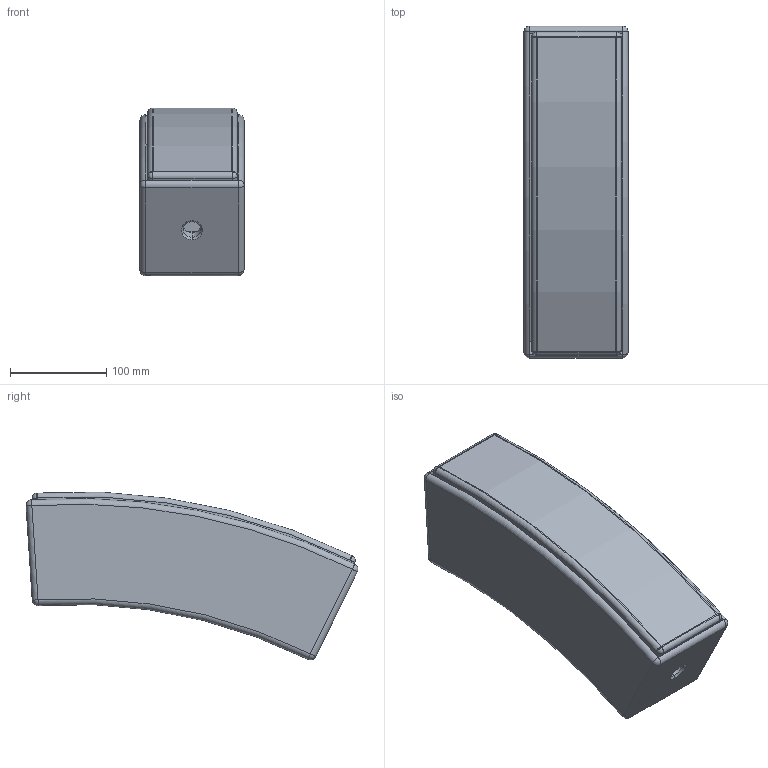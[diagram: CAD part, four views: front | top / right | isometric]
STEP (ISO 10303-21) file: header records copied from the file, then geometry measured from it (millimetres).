
FILE_DESCRIPTION (( 'STEP AP203' ), '1' );
FILE_NAME ('SEEBURG_L4c.STEP', '2012-09-26T09:52:15', ( 'Fabian' ), ( '' ), 'SwSTEP 2.0', 'SolidWorks 2009', '' );
FILE_SCHEMA (( 'CONFIG_CONTROL_DESIGN' ));
Length unit declared in the file: millimetre
Products named in the file (4): L4c_Gehäuse_Internet; SEEBURG_L4c; L4c_Rückwand_Internet; L4c_Stoffrahmen_Internet
Assembly tree (3 placements, depth 2):
  SEEBURG_L4c
    L4c_Stoffrahmen_Internet
    L4c_Gehäuse_Internet
    L4c_Rückwand_Internet
Bounding box: 108 x 344.51 x 173.91 mm (x, y, z)
Volume: 1413321.6 mm3; surface area: 384455.5 mm2
Topology: 4 solids, 4 shells, 115 faces, 283 edges, 165 vertices
Faces by surface type: cylinder 41, plane 40, sphere 14, cone 14, torus 6
Entity records: 3855 total; most frequent: CARTESIAN_POINT 759, DIRECTION 602, ORIENTED_EDGE 534, EDGE_CURVE 267, AXIS2_PLACEMENT_3D 231, VERTEX_POINT 157, VECTOR 140, LINE 140
